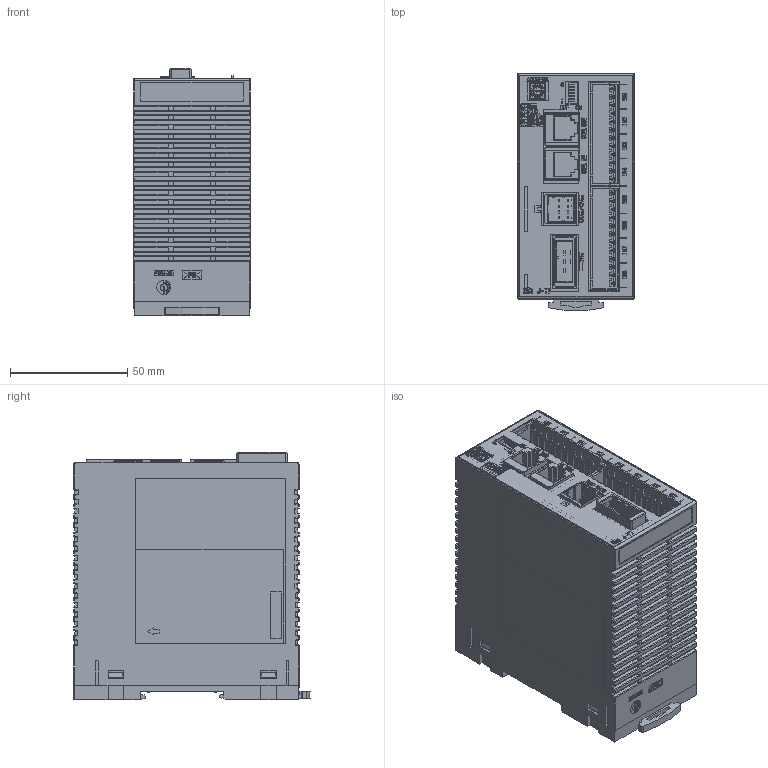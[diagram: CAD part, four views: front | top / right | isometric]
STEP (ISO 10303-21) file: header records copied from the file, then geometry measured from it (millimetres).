
FILE_DESCRIPTION (( 'STEP AP203' ), '1' );
FILE_NAME ('YISRJ-22(0).STEP', '2018-03-29T03:03:18', ( '' ), ( '' ), 'SwSTEP 2.0', 'SolidWorks 2016', '' );
FILE_SCHEMA (( 'CONFIG_CONTROL_DESIGN' ));
Products named in the file (3): SRJ(J-TI-C基本設計)_WEB; KSRZ-54(1)_WEB_デフォルト; YISRJ-22(0)
Assembly tree (2 placements, depth 2):
  YISRJ-22(0)
    SRJ(J-TI-C基本設計)_WEB
    KSRZ-54(1)_WEB_デフォルト
Bounding box: 49.5 x 100.86 x 105.22 mm (x, y, z)
Volume: 438452.4 mm3; surface area: 69989.6 mm2
Topology: 2 solids, 10 shells, 6806 faces, 18981 edges, 12295 vertices
Faces by surface type: plane 4890, bspline 877, cylinder 787, sphere 152, cone 74, torus 26
Entity records: 244718 total; most frequent: CARTESIAN_POINT 75978, ORIENTED_EDGE 37642, DIRECTION 30224, EDGE_CURVE 18821, VECTOR 15356, LINE 15356, VERTEX_POINT 12287, AXIS2_PLACEMENT_3D 7434
